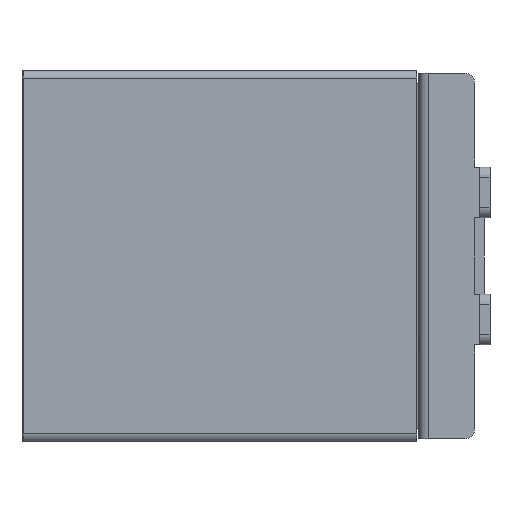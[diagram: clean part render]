
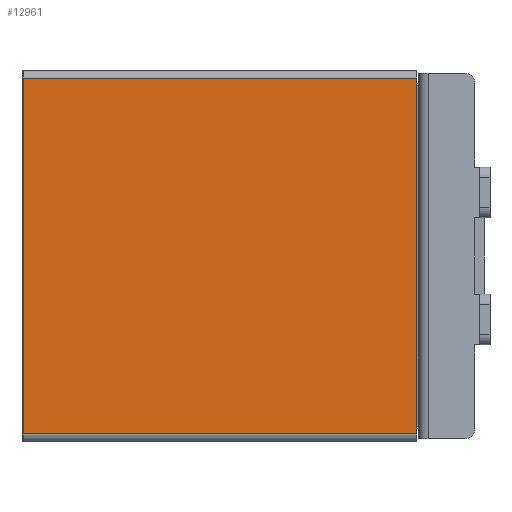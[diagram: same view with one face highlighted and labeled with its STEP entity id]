
A CAD part, left-side view. The second image highlights one B-rep face of the part: STEP entity #12961.
In plain terms, the highlighted planar face has unit normal (-1, 0, 0) as drawn and (0, 0, -1) by its records, which use the part's own axes.
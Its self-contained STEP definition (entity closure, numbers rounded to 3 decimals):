
#3269 = CARTESIAN_POINT ( 'NONE',  ( 35., 78.25, -50.5 ) ) ;
#8452 = DIRECTION ( 'NONE',  ( 0., 0., 1. ) ) ;
#9155 = FACE_OUTER_BOUND ( 'NONE', #23759, .T. ) ;
#10383 = DIRECTION ( 'NONE',  ( 1., 0., 0. ) ) ;
#11794 = VECTOR ( 'NONE', #10383, 1000. ) ;
#12078 = DIRECTION ( 'NONE',  ( 1., 0., 0. ) ) ;
#12961 = ADVANCED_FACE ( 'NONE', ( #9155 ), #34285, .F. ) ;
#13303 = CARTESIAN_POINT ( 'NONE',  ( -35., 78.25, -50.5 ) ) ;
#13486 = CARTESIAN_POINT ( 'NONE',  ( 35., 78.5, -50.5 ) ) ;
#15631 = VERTEX_POINT ( 'NONE', #41120 ) ;
#16602 = EDGE_CURVE ( 'NONE', #21572, #15631, #21963, .T. ) ;
#17162 = ORIENTED_EDGE ( 'NONE', *, *, #25179, .T. ) ;
#17850 = ORIENTED_EDGE ( 'NONE', *, *, #31158, .T. ) ;
#17860 = LINE ( 'NONE', #38734, #36952 ) ;
#21572 = VERTEX_POINT ( 'NONE', #24282 ) ;
#21963 = LINE ( 'NONE', #44508, #11794 ) ;
#23715 = ORIENTED_EDGE ( 'NONE', *, *, #24851, .T. ) ;
#23759 = EDGE_LOOP ( 'NONE', ( #23715, #17850, #17162, #43905 ) ) ;
#24282 = CARTESIAN_POINT ( 'NONE',  ( -35., 0.8, -50.5 ) ) ;
#24851 = EDGE_CURVE ( 'NONE', #21572, #37128, #26976, .T. ) ;
#25167 = VECTOR ( 'NONE', #28677, 1000. ) ;
#25179 = EDGE_CURVE ( 'NONE', #31857, #15631, #45410, .T. ) ;
#26976 = LINE ( 'NONE', #39373, #46026 ) ;
#28677 = DIRECTION ( 'NONE',  ( 0., -1., 0. ) ) ;
#31158 = EDGE_CURVE ( 'NONE', #37128, #31857, #17860, .T. ) ;
#31287 = CARTESIAN_POINT ( 'NONE',  ( 36.5, 78.5, -50.5 ) ) ;
#31572 = DIRECTION ( 'NONE',  ( 0., 1., 0. ) ) ;
#31857 = VERTEX_POINT ( 'NONE', #3269 ) ;
#32576 = AXIS2_PLACEMENT_3D ( 'NONE', #31287, #8452, #35111 ) ;
#34285 = PLANE ( 'NONE',  #32576 ) ;
#35111 = DIRECTION ( 'NONE',  ( 1., 0., 0. ) ) ;
#36952 = VECTOR ( 'NONE', #12078, 1000. ) ;
#37128 = VERTEX_POINT ( 'NONE', #13303 ) ;
#38734 = CARTESIAN_POINT ( 'NONE',  ( 35., 78.25, -50.5 ) ) ;
#39373 = CARTESIAN_POINT ( 'NONE',  ( -35., 78.5, -50.5 ) ) ;
#41120 = CARTESIAN_POINT ( 'NONE',  ( 35., 0.8, -50.5 ) ) ;
#43905 = ORIENTED_EDGE ( 'NONE', *, *, #16602, .F. ) ;
#44508 = CARTESIAN_POINT ( 'NONE',  ( 36.5, 0.8, -50.5 ) ) ;
#45410 = LINE ( 'NONE', #13486, #25167 ) ;
#46026 = VECTOR ( 'NONE', #31572, 1000. ) ;
